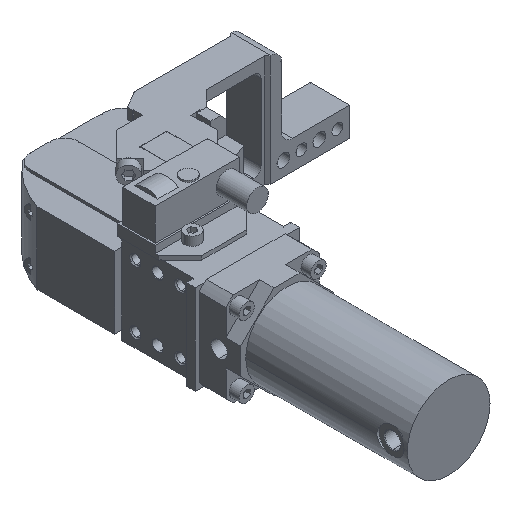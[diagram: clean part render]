
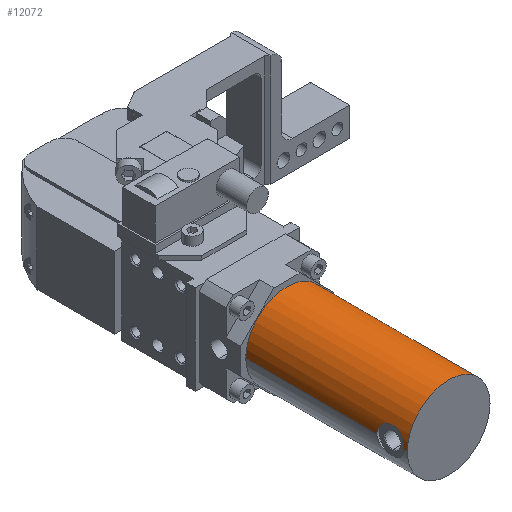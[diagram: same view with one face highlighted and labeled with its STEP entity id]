
A CAD part, isometric view. The second image highlights one B-rep face of the part: STEP entity #12072.
In plain terms, the highlighted cylindrical face has radius 23 mm (diameter 46 mm), a partial arc.
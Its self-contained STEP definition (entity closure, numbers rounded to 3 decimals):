
#50 = CARTESIAN_POINT ( 'NONE',  ( -1.693, 96.191, 22.939 ) ) ;
#241 = ORIENTED_EDGE ( 'NONE', *, *, #8115, .T. ) ;
#331 = VERTEX_POINT ( 'NONE', #13354 ) ;
#408 = VERTEX_POINT ( 'NONE', #7710 ) ;
#552 = VERTEX_POINT ( 'NONE', #6734 ) ;
#716 = EDGE_CURVE ( 'NONE', #8452, #12764, #3807, .T. ) ;
#811 = B_SPLINE_CURVE_WITH_KNOTS ( 'NONE', 3,
 ( #6471, #9123, #7630, #6104, #4505, #2883, #1349, #14788, #13355, #11897, #10298, #8756, #7280, #5737, #4107, #2524 ),
 .UNSPECIFIED., .F., .F.,
 ( 4, 2, 2, 2, 2, 2, 2, 4 ),
 ( 0., 0.003, 0.004, 0.005, 0.006, 0.008, 0.009, 0.01 ),
 .UNSPECIFIED. ) ;
#845 = CIRCLE ( 'NONE', #6076, 23. ) ;
#916 = DIRECTION ( 'NONE',  ( 0., -1., 0. ) ) ;
#921 = CARTESIAN_POINT ( 'NONE',  ( -7.332, 101.922, 21.8 ) ) ;
#966 = VERTEX_POINT ( 'NONE', #14317 ) ;
#1314 = CARTESIAN_POINT ( 'NONE',  ( -5.051, 97.94, 22.441 ) ) ;
#1349 = CARTESIAN_POINT ( 'NONE',  ( -5.05, 109.061, 22.441 ) ) ;
#1417 = CARTESIAN_POINT ( 'NONE',  ( 0., 113., -23. ) ) ;
#1459 = EDGE_CURVE ( 'NONE', #8452, #552, #4071, .T. ) ;
#1553 = DIRECTION ( 'NONE',  ( 0., 0., -1. ) ) ;
#1681 = CARTESIAN_POINT ( 'NONE',  ( -1.485, 96.145, 22.953 ) ) ;
#1734 = CARTESIAN_POINT ( 'NONE',  ( -7.332, 101.922, 21.8 ) ) ;
#1926 = ORIENTED_EDGE ( 'NONE', *, *, #11315, .T. ) ;
#2055 = EDGE_LOOP ( 'NONE', ( #8356, #9543, #4223, #241, #7224, #1926, #12267, #10119 ) ) ;
#2096 = EDGE_CURVE ( 'NONE', #966, #331, #5519, .T. ) ;
#2487 = CARTESIAN_POINT ( 'NONE',  ( 0., 113., -23. ) ) ;
#2490 = CARTESIAN_POINT ( 'NONE',  ( -7.241, 101.501, 21.83 ) ) ;
#2524 = CARTESIAN_POINT ( 'NONE',  ( 0., 111., 23. ) ) ;
#2844 = CARTESIAN_POINT ( 'NONE',  ( -4.558, 97.54, 22.545 ) ) ;
#2883 = CARTESIAN_POINT ( 'NONE',  ( -5.356, 108.767, 22.37 ) ) ;
#3094 = DIRECTION ( 'NONE',  ( 0., -1., 0. ) ) ;
#3154 = AXIS2_PLACEMENT_3D ( 'NONE', #6090, #14770, #13336 ) ;
#3236 = CARTESIAN_POINT ( 'NONE',  ( -0.856, 96.037, 22.988 ) ) ;
#3807 = CIRCLE ( 'NONE', #3154, 23. ) ;
#3914 = CYLINDRICAL_SURFACE ( 'NONE', #13515, 23. ) ;
#4071 = LINE ( 'NONE', #2487, #8291 ) ;
#4073 = CARTESIAN_POINT ( 'NONE',  ( -7.115, 101.09, 21.873 ) ) ;
#4107 = CARTESIAN_POINT ( 'NONE',  ( -0.432, 111., 23. ) ) ;
#4223 = ORIENTED_EDGE ( 'NONE', *, *, #1459, .T. ) ;
#4470 = CARTESIAN_POINT ( 'NONE',  ( -4.386, 97.412, 22.579 ) ) ;
#4505 = CARTESIAN_POINT ( 'NONE',  ( -5.911, 108.136, 22.229 ) ) ;
#4767 = EDGE_CURVE ( 'NONE', #12764, #408, #8245, .T. ) ;
#4852 = CARTESIAN_POINT ( 'NONE',  ( -0.431, 96., 23. ) ) ;
#5170 = DIRECTION ( 'NONE',  ( 0., -1., 0. ) ) ;
#5519 = LINE ( 'NONE', #8216, #13227 ) ;
#5579 = B_SPLINE_CURVE_WITH_KNOTS ( 'NONE', 3,
 ( #10985, #4852, #3236, #1681, #50, #13649, #12206, #10621, #9082, #7589, #6066, #4470, #2844, #1314, #14748, #13317, #11860, #10261, #8718, #7248, #5697, #4073, #2490, #921 ),
 .UNSPECIFIED., .F., .F.,
 ( 4, 2, 2, 2, 2, 2, 2, 2, 2, 2, 2, 4 ),
 ( 0.01, 0.011, 0.012, 0.013, 0.014, 0.015, 0.015, 0.017, 0.017, 0.018, 0.019, 0.02 ),
 .UNSPECIFIED. ) ;
#5659 = VERTEX_POINT ( 'NONE', #10390 ) ;
#5697 = CARTESIAN_POINT ( 'NONE',  ( -6.799, 100.305, 21.973 ) ) ;
#5737 = CARTESIAN_POINT ( 'NONE',  ( -0.859, 110.963, 22.988 ) ) ;
#6066 = CARTESIAN_POINT ( 'NONE',  ( -4.035, 97.174, 22.644 ) ) ;
#6076 = AXIS2_PLACEMENT_3D ( 'NONE', #11604, #10016, #8483 ) ;
#6090 = CARTESIAN_POINT ( 'NONE',  ( 0., 113., 0. ) ) ;
#6104 = CARTESIAN_POINT ( 'NONE',  ( -6.162, 107.797, 22.16 ) ) ;
#6178 = CARTESIAN_POINT ( 'NONE',  ( 0., 113., 23. ) ) ;
#6307 = CARTESIAN_POINT ( 'NONE',  ( 0., 113., 0. ) ) ;
#6471 = CARTESIAN_POINT ( 'NONE',  ( -7.332, 105.078, 21.8 ) ) ;
#6710 = DIRECTION ( 'NONE',  ( 0., -1., 0. ) ) ;
#6734 = CARTESIAN_POINT ( 'NONE',  ( 0., 23., -23. ) ) ;
#6740 = CARTESIAN_POINT ( 'NONE',  ( 0., 113., 23. ) ) ;
#7224 = ORIENTED_EDGE ( 'NONE', *, *, #2096, .F. ) ;
#7248 = CARTESIAN_POINT ( 'NONE',  ( -6.609, 99.929, 22.031 ) ) ;
#7280 = CARTESIAN_POINT ( 'NONE',  ( -1.696, 110.818, 22.941 ) ) ;
#7589 = CARTESIAN_POINT ( 'NONE',  ( -3.855, 97.063, 22.675 ) ) ;
#7630 = CARTESIAN_POINT ( 'NONE',  ( -6.834, 106.706, 21.966 ) ) ;
#7639 = VERTEX_POINT ( 'NONE', #1734 ) ;
#7710 = CARTESIAN_POINT ( 'NONE',  ( 0., 111., 23. ) ) ;
#7997 = EDGE_CURVE ( 'NONE', #5659, #7639, #11506, .T. ) ;
#8115 = EDGE_CURVE ( 'NONE', #552, #331, #845, .T. ) ;
#8216 = CARTESIAN_POINT ( 'NONE',  ( 0., 113., 23. ) ) ;
#8245 = LINE ( 'NONE', #6740, #11840 ) ;
#8291 = VECTOR ( 'NONE', #916, 1000. ) ;
#8356 = ORIENTED_EDGE ( 'NONE', *, *, #4767, .F. ) ;
#8395 = DIRECTION ( 'NONE',  ( 0., -1., 0. ) ) ;
#8452 = VERTEX_POINT ( 'NONE', #1417 ) ;
#8483 = DIRECTION ( 'NONE',  ( 0., 0., 1. ) ) ;
#8718 = CARTESIAN_POINT ( 'NONE',  ( -6.276, 99.388, 22.128 ) ) ;
#8756 = CARTESIAN_POINT ( 'NONE',  ( -2.108, 110.71, 22.907 ) ) ;
#9082 = CARTESIAN_POINT ( 'NONE',  ( -3.302, 96.753, 22.765 ) ) ;
#9123 = CARTESIAN_POINT ( 'NONE',  ( -7.151, 105.921, 21.861 ) ) ;
#9543 = ORIENTED_EDGE ( 'NONE', *, *, #716, .F. ) ;
#9918 = CARTESIAN_POINT ( 'NONE',  ( -7.332, 113., 21.8 ) ) ;
#10016 = DIRECTION ( 'NONE',  ( 0., 1., 0. ) ) ;
#10119 = ORIENTED_EDGE ( 'NONE', *, *, #12389, .T. ) ;
#10261 = CARTESIAN_POINT ( 'NONE',  ( -6.156, 99.21, 22.161 ) ) ;
#10298 = CARTESIAN_POINT ( 'NONE',  ( -2.917, 110.423, 22.818 ) ) ;
#10390 = CARTESIAN_POINT ( 'NONE',  ( -7.332, 105.078, 21.8 ) ) ;
#10621 = CARTESIAN_POINT ( 'NONE',  ( -2.917, 96.577, 22.818 ) ) ;
#10985 = CARTESIAN_POINT ( 'NONE',  ( 0., 96., 23. ) ) ;
#11315 = EDGE_CURVE ( 'NONE', #966, #7639, #5579, .T. ) ;
#11506 = LINE ( 'NONE', #9918, #13627 ) ;
#11604 = CARTESIAN_POINT ( 'NONE',  ( 0., 23., 0. ) ) ;
#11840 = VECTOR ( 'NONE', #5170, 1000. ) ;
#11860 = CARTESIAN_POINT ( 'NONE',  ( -5.903, 98.869, 22.23 ) ) ;
#11897 = CARTESIAN_POINT ( 'NONE',  ( -3.304, 110.246, 22.764 ) ) ;
#12072 = ADVANCED_FACE ( 'NONE', ( #14581 ), #3914, .T. ) ;
#12206 = CARTESIAN_POINT ( 'NONE',  ( -2.312, 96.362, 22.884 ) ) ;
#12267 = ORIENTED_EDGE ( 'NONE', *, *, #7997, .F. ) ;
#12389 = EDGE_CURVE ( 'NONE', #5659, #408, #811, .T. ) ;
#12764 = VERTEX_POINT ( 'NONE', #6178 ) ;
#13227 = VECTOR ( 'NONE', #6710, 1000. ) ;
#13317 = CARTESIAN_POINT ( 'NONE',  ( -5.771, 98.705, 22.265 ) ) ;
#13336 = DIRECTION ( 'NONE',  ( 0., 0., 1. ) ) ;
#13354 = CARTESIAN_POINT ( 'NONE',  ( 0., 23., 23. ) ) ;
#13355 = CARTESIAN_POINT ( 'NONE',  ( -4.04, 109.833, 22.646 ) ) ;
#13515 = AXIS2_PLACEMENT_3D ( 'NONE', #6307, #3094, #1553 ) ;
#13627 = VECTOR ( 'NONE', #8395, 1000. ) ;
#13649 = CARTESIAN_POINT ( 'NONE',  ( -2.106, 96.299, 22.904 ) ) ;
#14317 = CARTESIAN_POINT ( 'NONE',  ( 0., 96., 23. ) ) ;
#14581 = FACE_OUTER_BOUND ( 'NONE', #2055, .T. ) ;
#14748 = CARTESIAN_POINT ( 'NONE',  ( -5.354, 98.231, 22.37 ) ) ;
#14770 = DIRECTION ( 'NONE',  ( 0., 1., 0. ) ) ;
#14788 = CARTESIAN_POINT ( 'NONE',  ( -4.389, 109.597, 22.58 ) ) ;
